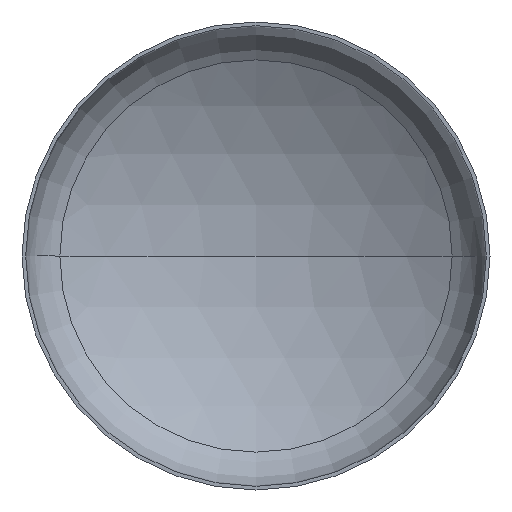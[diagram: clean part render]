
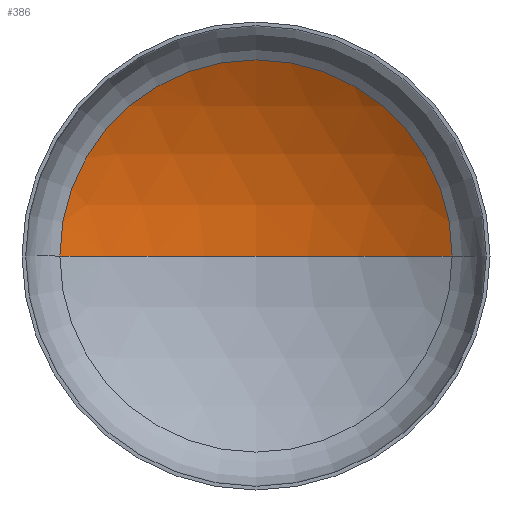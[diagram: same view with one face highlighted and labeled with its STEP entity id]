
A CAD part, front view. The second image highlights one B-rep face of the part: STEP entity #386.
In plain terms, the highlighted spherical face has radius 406 mm.
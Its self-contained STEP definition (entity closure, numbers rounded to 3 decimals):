
#10 = AXIS2_PLACEMENT_3D ( 'NONE', #153, #273, #396 ) ;
#14 = AXIS2_PLACEMENT_3D ( 'NONE', #334, #218, #266 ) ;
#16 = EDGE_LOOP ( 'NONE', ( #100, #89, #35 ) ) ;
#17 = AXIS2_PLACEMENT_3D ( 'NONE', #165, #168, #248 ) ;
#28 = VERTEX_POINT ( 'NONE', #283 ) ;
#35 = ORIENTED_EDGE ( 'NONE', *, *, #354, .T. ) ;
#58 = CIRCLE ( 'NONE', #17, 406. ) ;
#89 = ORIENTED_EDGE ( 'NONE', *, *, #340, .T. ) ;
#100 = ORIENTED_EDGE ( 'NONE', *, *, #341, .F. ) ;
#104 = VERTEX_POINT ( 'NONE', #230 ) ;
#128 = VERTEX_POINT ( 'NONE', #349 ) ;
#153 = CARTESIAN_POINT ( 'NONE',  ( 0., 86.415, 0. ) ) ;
#160 = SPHERICAL_SURFACE ( 'NONE', #376, 406. ) ;
#165 = CARTESIAN_POINT ( 'NONE',  ( 0., -259.285, 0. ) ) ;
#168 = DIRECTION ( 'NONE',  ( 0., 0., -1. ) ) ;
#170 = CIRCLE ( 'NONE', #10, 212.902 ) ;
#174 = DIRECTION ( 'NONE',  ( 0., 0., -1. ) ) ;
#218 = DIRECTION ( 'NONE',  ( 0., 0., 1. ) ) ;
#230 = CARTESIAN_POINT ( 'NONE',  ( 0., 146.715, 0. ) ) ;
#231 = FACE_OUTER_BOUND ( 'NONE', #16, .T. ) ;
#248 = DIRECTION ( 'NONE',  ( -1., 0., 0. ) ) ;
#266 = DIRECTION ( 'NONE',  ( 1., 0., 0. ) ) ;
#273 = DIRECTION ( 'NONE',  ( 0., -1., 0. ) ) ;
#283 = CARTESIAN_POINT ( 'NONE',  ( 212.902, 86.415, 0. ) ) ;
#301 = CARTESIAN_POINT ( 'NONE',  ( 0., -259.285, 0. ) ) ;
#334 = CARTESIAN_POINT ( 'NONE',  ( 0., -259.285, 0. ) ) ;
#340 = EDGE_CURVE ( 'NONE', #104, #28, #58, .T. ) ;
#341 = EDGE_CURVE ( 'NONE', #104, #128, #382, .T. ) ;
#349 = CARTESIAN_POINT ( 'NONE',  ( -212.902, 86.415, 0. ) ) ;
#354 = EDGE_CURVE ( 'NONE', #28, #128, #170, .T. ) ;
#357 = DIRECTION ( 'NONE',  ( -1., 0., 0. ) ) ;
#376 = AXIS2_PLACEMENT_3D ( 'NONE', #301, #174, #357 ) ;
#382 = CIRCLE ( 'NONE', #14, 406. ) ;
#386 = ADVANCED_FACE ( 'NONE', ( #231 ), #160, .F. ) ;
#396 = DIRECTION ( 'NONE',  ( 1., 0., 0. ) ) ;
